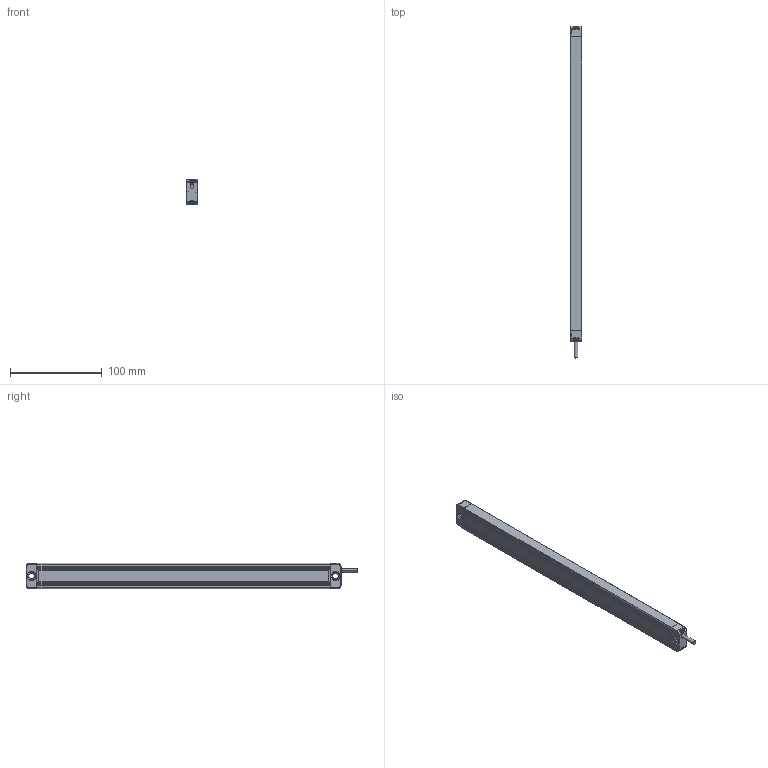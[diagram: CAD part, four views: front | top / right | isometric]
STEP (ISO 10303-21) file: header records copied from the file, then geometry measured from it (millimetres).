
FILE_DESCRIPTION((''),'2;1');
FILE_NAME('EB13-0320_ASM','2021-07-12T16:50:14',('18720616900'),(''),'CREO PARAMETRIC BY PTC INC, 2019010','CREO PARAMETRIC BY PTC INC, 2019010','');
FILE_SCHEMA(('CONFIG_CONTROL_DESIGN'));
Products named in the file (7): EB1300; 000; 0002; 0004; EB13-0320_ASM
Assembly tree (9 placements, depth 2):
  EB13-0320_ASM
    EB1300
    000
    0002
    000
    0004  x4
    000
Bounding box: 13 x 362.4 x 28 mm (x, y, z)
Volume: 128200.9 mm3; surface area: 46568.7 mm2
Topology: 9 solids, 27 shells, 1032 faces, 3520 edges, 2523 vertices
Faces by surface type: cylinder 544, plane 295, bspline 118, torus 40, sphere 31, cone 4
Entity records: 52594 total; most frequent: CARTESIAN_POINT 37957, ORIENTED_EDGE 3370, DIRECTION 2501, EDGE_CURVE 1685, VERTEX_POINT 1150, AXIS2_PLACEMENT_3D 849, VECTOR 803, LINE 803
